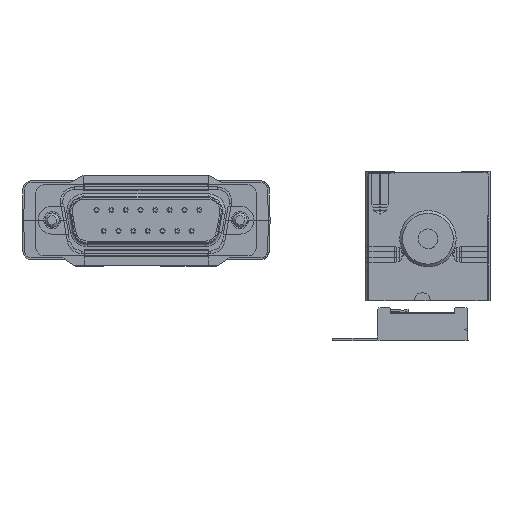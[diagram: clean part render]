
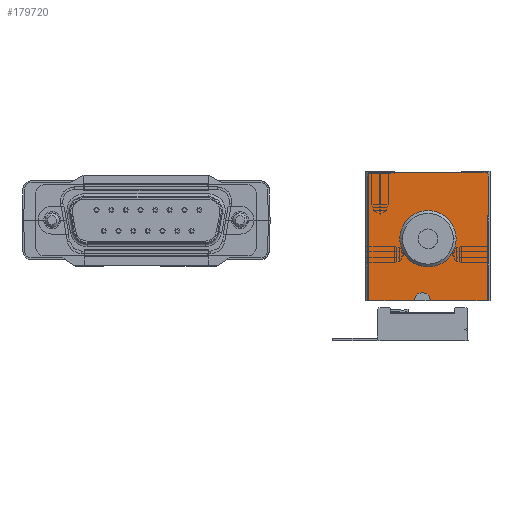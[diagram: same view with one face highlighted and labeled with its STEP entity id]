
A CAD part, front view. The second image highlights one B-rep face of the part: STEP entity #179720.
In plain terms, the highlighted planar face has unit normal (0, -1, 0) as drawn and (1, 0, 0) by its records, which use the part's own axes.
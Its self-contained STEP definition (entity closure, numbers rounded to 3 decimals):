
#171040=CARTESIAN_POINT('',(40.,22.,0.));
#171050=DIRECTION('',(0.,-1.,0.));
#171060=VECTOR('',#171050,1.);
#171070=LINE('',#171040,#171060);
#171080=CARTESIAN_POINT('',(40.,5.,0.));
#171090=VERTEX_POINT('',#171080);
#171100=CARTESIAN_POINT('',(40.,0.5,0.));
#171110=VERTEX_POINT('',#171100);
#171120=EDGE_CURVE('',#171090,#171110,#171070,.T.);
#173990=CARTESIAN_POINT('',(40.,0.5,-23.));
#174000=VERTEX_POINT('',#173990);
#174030=CARTESIAN_POINT('',(40.,0.,-23.));
#174040=DIRECTION('',(0.,1.,0.));
#174050=VECTOR('',#174040,1.);
#174060=LINE('',#174030,#174050);
#174070=CARTESIAN_POINT('',(40.,8.6,-23.));
#174080=VERTEX_POINT('',#174070);
#174090=EDGE_CURVE('',#174000,#174080,#174060,.T.);
#174310=CARTESIAN_POINT('',(40.,11.4,-23.));
#174320=VERTEX_POINT('',#174310);
#174350=CARTESIAN_POINT('',(40.,21.5,-23.));
#174360=VERTEX_POINT('',#174350);
#174370=EDGE_CURVE('',#174320,#174360,#174060,.T.);
#176290=CARTESIAN_POINT('',(40.,11.4,0.));
#176300=DIRECTION('',(0.,0.,1.));
#176310=VECTOR('',#176300,1.);
#176320=LINE('',#176290,#176310);
#176330=CARTESIAN_POINT('',(40.,11.4,-22.8));
#176340=VERTEX_POINT('',#176330);
#176350=EDGE_CURVE('',#174320,#176340,#176320,.T.);
#177020=CARTESIAN_POINT('',(40.,9.8,-22.8));
#177030=DIRECTION('',(-1.,0.,0.));
#177040=DIRECTION('',(0.,1.,0.));
#177050=AXIS2_PLACEMENT_3D('',#177020,#177030,#177040);
#177060=CIRCLE('',#177050,1.2);
#177070=CARTESIAN_POINT('',(40.,8.6,-22.8));
#177080=VERTEX_POINT('',#177070);
#177090=CARTESIAN_POINT('',(40.,9.8,-21.6));
#177100=VERTEX_POINT('',#177090);
#177110=EDGE_CURVE('',#177080,#177100,#177060,.T.);
#177340=CARTESIAN_POINT('',(40.,0.,-21.6));
#177350=DIRECTION('',(0.,-1.,0.));
#177360=VECTOR('',#177350,1.);
#177370=LINE('',#177340,#177360);
#177380=CARTESIAN_POINT('',(40.,10.2,-21.6));
#177390=VERTEX_POINT('',#177380);
#177400=EDGE_CURVE('',#177390,#177100,#177370,.T.);
#177600=CARTESIAN_POINT('',(40.,10.2,-22.8));
#177610=DIRECTION('',(-1.,0.,0.));
#177620=DIRECTION('',(0.,1.,0.));
#177630=AXIS2_PLACEMENT_3D('',#177600,#177610,#177620);
#177640=CIRCLE('',#177630,1.2);
#177650=EDGE_CURVE('',#177390,#176340,#177640,.T.);
#177780=CARTESIAN_POINT('',(40.,8.6,0.));
#177790=DIRECTION('',(0.,0.,-1.));
#177800=VECTOR('',#177790,1.);
#177810=LINE('',#177780,#177800);
#177820=EDGE_CURVE('',#177080,#174080,#177810,.T.);
#177930=CARTESIAN_POINT('',(40.,5.846,-7.9));
#177940=DIRECTION('',(0.,-1.,0.));
#177950=VECTOR('',#177940,1.);
#177960=LINE('',#177930,#177950);
#177970=CARTESIAN_POINT('',(40.,21.8,-7.9));
#177980=VERTEX_POINT('',#177970);
#177990=CARTESIAN_POINT('',(40.,21.5,-7.9));
#178000=VERTEX_POINT('',#177990);
#178010=EDGE_CURVE('',#177980,#178000,#177960,.T.);
#178740=CARTESIAN_POINT('',(40.,0.1,-0.8));
#178750=DIRECTION('',(1.,-0.,0.));
#178760=DIRECTION('',(0.,0.,-1.));
#178770=AXIS2_PLACEMENT_3D('',#178740,#178750,#178760);
#178780=PLANE('',#178770);
#178790=CARTESIAN_POINT('',(40.,20.9,-1.1));
#178800=DIRECTION('',(1.,0.,0.));
#178810=DIRECTION('',(0.,-1.,0.));
#178820=AXIS2_PLACEMENT_3D('',#178790,#178800,#178810);
#178830=CIRCLE('',#178820,0.9);
#178840=CARTESIAN_POINT('',(40.,21.8,-1.1));
#178850=VERTEX_POINT('',#178840);
#178860=CARTESIAN_POINT('',(40.,20.9,-0.2));
#178870=VERTEX_POINT('',#178860);
#178880=EDGE_CURVE('',#178850,#178870,#178830,.T.);
#178890=ORIENTED_EDGE('',*,*,#178880,.T.);
#178900=CARTESIAN_POINT('',(40.,21.8,-0.8));
#178910=DIRECTION('',(0.,0.,1.));
#178920=VECTOR('',#178910,1.);
#178930=LINE('',#178900,#178920);
#178940=EDGE_CURVE('',#177980,#178850,#178930,.T.);
#178950=ORIENTED_EDGE('',*,*,#178940,.T.);
#178960=ORIENTED_EDGE('',*,*,#178010,.F.);
#178970=CARTESIAN_POINT('',(40.,21.5,0.));
#178980=DIRECTION('',(0.,0.,1.));
#178990=VECTOR('',#178980,1.);
#179000=LINE('',#178970,#178990);
#179010=CARTESIAN_POINT('',(40.,21.5,-8.));
#179020=VERTEX_POINT('',#179010);
#179030=EDGE_CURVE('',#179020,#178000,#179000,.T.);
#179040=ORIENTED_EDGE('',*,*,#179030,.T.);
#179050=CARTESIAN_POINT('',(40.,21.5,-15.5));
#179060=DIRECTION('',(0.,0.,-1.));
#179070=VECTOR('',#179060,1.);
#179080=LINE('',#179050,#179070);
#179090=EDGE_CURVE('',#179020,#174360,#179080,.T.);
#179100=ORIENTED_EDGE('',*,*,#179090,.F.);
#179110=ORIENTED_EDGE('',*,*,#174370,.T.);
#179120=ORIENTED_EDGE('',*,*,#176350,.F.);
#179130=ORIENTED_EDGE('',*,*,#177650,.T.);
#179140=ORIENTED_EDGE('',*,*,#177400,.F.);
#179150=ORIENTED_EDGE('',*,*,#177110,.T.);
#179160=ORIENTED_EDGE('',*,*,#177820,.F.);
#179170=ORIENTED_EDGE('',*,*,#174090,.T.);
#179180=CARTESIAN_POINT('',(40.,0.5,-11.5));
#179190=DIRECTION('',(0.,0.,-1.));
#179200=VECTOR('',#179190,1.);
#179210=LINE('',#179180,#179200);
#179220=EDGE_CURVE('',#171110,#174000,#179210,.T.);
#179230=ORIENTED_EDGE('',*,*,#179220,.T.);
#179240=ORIENTED_EDGE('',*,*,#171120,.T.);
#179250=CARTESIAN_POINT('',(40.,5.,0.));
#179260=DIRECTION('',(0.,0.,-1.));
#179270=VECTOR('',#179260,1.);
#179280=LINE('',#179250,#179270);
#179290=CARTESIAN_POINT('',(40.,5.,-0.5));
#179300=VERTEX_POINT('',#179290);
#179310=EDGE_CURVE('',#171090,#179300,#179280,.T.);
#179320=ORIENTED_EDGE('',*,*,#179310,.F.);
#179330=CARTESIAN_POINT('',(40.,0.,-0.5));
#179340=DIRECTION('',(0.,-1.,0.));
#179350=VECTOR('',#179340,1.);
#179360=LINE('',#179330,#179350);
#179370=CARTESIAN_POINT('',(40.,5.05,-0.5));
#179380=VERTEX_POINT('',#179370);
#179390=EDGE_CURVE('',#179380,#179300,#179360,.T.);
#179400=ORIENTED_EDGE('',*,*,#179390,.T.);
#179410=CARTESIAN_POINT('',(40.,5.05,-0.8));
#179420=DIRECTION('',(0.,0.,1.));
#179430=VECTOR('',#179420,1.);
#179440=LINE('',#179410,#179430);
#179450=CARTESIAN_POINT('',(40.,5.05,-0.2));
#179460=VERTEX_POINT('',#179450);
#179470=EDGE_CURVE('',#179380,#179460,#179440,.T.);
#179480=ORIENTED_EDGE('',*,*,#179470,.F.);
#179490=CARTESIAN_POINT('',(40.,5.646,-0.2));
#179500=DIRECTION('',(0.,1.,0.));
#179510=VECTOR('',#179500,1.);
#179520=LINE('',#179490,#179510);
#179530=EDGE_CURVE('',#179460,#178870,#179520,.T.);
#179540=ORIENTED_EDGE('',*,*,#179530,.F.);
#179550=EDGE_LOOP('',(#179540,#179480,#179400,#179320,#179240,#179230,
#179170,#179160,#179150,#179140,#179130,#179120,#179110,#179100,#179040,
#178960,#178950,#178890));
#179560=FACE_OUTER_BOUND('',#179550,.T.);
#179570=CARTESIAN_POINT('',(40.,11.,-12.));
#179580=DIRECTION('',(1.,0.,0.));
#179590=DIRECTION('',(0.,1.,0.));
#179600=AXIS2_PLACEMENT_3D('',#179570,#179580,#179590);
#179610=CIRCLE('',#179600,5.);
#179620=CARTESIAN_POINT('',(40.,16.,-12.));
#179630=VERTEX_POINT('',#179620);
#179640=CARTESIAN_POINT('',(40.,6.,-12.));
#179650=VERTEX_POINT('',#179640);
#179660=EDGE_CURVE('',#179630,#179650,#179610,.T.);
#179670=ORIENTED_EDGE('',*,*,#179660,.F.);
#179680=EDGE_CURVE('',#179650,#179630,#179610,.T.);
#179690=ORIENTED_EDGE('',*,*,#179680,.F.);
#179700=EDGE_LOOP('',(#179690,#179670));
#179710=FACE_BOUND('',#179700,.T.);
#179720=ADVANCED_FACE('',(#179560,#179710),#178780,.T.);
